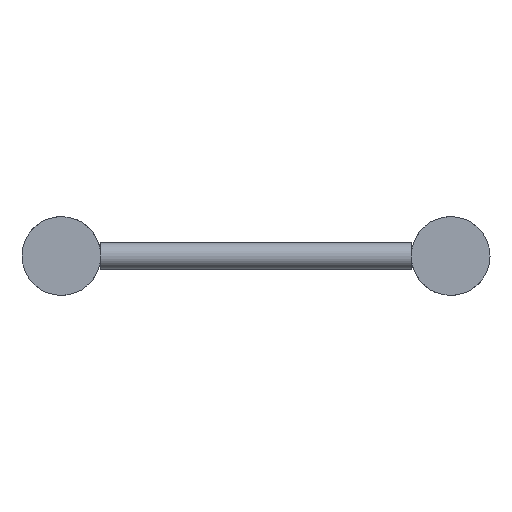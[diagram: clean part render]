
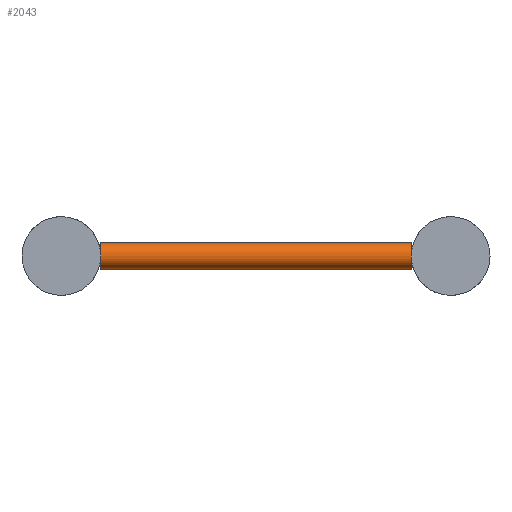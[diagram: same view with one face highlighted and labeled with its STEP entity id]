
A CAD part, left-side view. The second image highlights one B-rep face of the part: STEP entity #2043.
In plain terms, the highlighted cylindrical face has radius 8 mm (diameter 16 mm), a full revolution.
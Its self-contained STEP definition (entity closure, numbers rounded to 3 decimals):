
#409=FACE_BOUND('',#721,.T.);
#572=FACE_OUTER_BOUND('',#720,.T.);
#720=EDGE_LOOP('',(#1569,#1570));
#721=EDGE_LOOP('',(#1571,#1572));
#829=CIRCLE('',#2246,8.);
#830=CIRCLE('',#2248,8.);
#831=CIRCLE('',#2250,8.);
#832=CIRCLE('',#2252,8.);
#993=VERTEX_POINT('',#3583);
#994=VERTEX_POINT('',#3584);
#995=VERTEX_POINT('',#3588);
#996=VERTEX_POINT('',#3589);
#1240=EDGE_CURVE('',#994,#993,#829,.T.);
#1242=EDGE_CURVE('',#996,#995,#830,.T.);
#1243=EDGE_CURVE('',#993,#994,#831,.T.);
#1244=EDGE_CURVE('',#995,#996,#832,.T.);
#1569=ORIENTED_EDGE('',*,*,#1240,.T.);
#1570=ORIENTED_EDGE('',*,*,#1243,.T.);
#1571=ORIENTED_EDGE('',*,*,#1242,.T.);
#1572=ORIENTED_EDGE('',*,*,#1244,.T.);
#1807=CYLINDRICAL_SURFACE('',#2251,8.);
#2043=ADVANCED_FACE('',(#572,#409),#1807,.T.);
#2246=AXIS2_PLACEMENT_3D('',#3586,#2708,#2709);
#2248=AXIS2_PLACEMENT_3D('',#3591,#2713,#2714);
#2250=AXIS2_PLACEMENT_3D('',#3593,#2717,#2718);
#2251=AXIS2_PLACEMENT_3D('',#3594,#2719,#2720);
#2252=AXIS2_PLACEMENT_3D('',#3595,#2721,#2722);
#2708=DIRECTION('center_axis',(0.,1.,0.));
#2709=DIRECTION('ref_axis',(-1.,0.,0.));
#2713=DIRECTION('center_axis',(0.,-1.,0.));
#2714=DIRECTION('ref_axis',(-1.,0.,0.));
#2717=DIRECTION('center_axis',(0.,1.,0.));
#2718=DIRECTION('ref_axis',(-1.,0.,0.));
#2719=DIRECTION('center_axis',(0.,1.,0.));
#2720=DIRECTION('ref_axis',(-1.,0.,0.));
#2721=DIRECTION('center_axis',(0.,-1.,0.));
#2722=DIRECTION('ref_axis',(-1.,0.,0.));
#3583=CARTESIAN_POINT('',(52.,24.15,0.));
#3584=CARTESIAN_POINT('',(68.,24.15,0.));
#3586=CARTESIAN_POINT('Origin',(60.,24.15,0.));
#3588=CARTESIAN_POINT('',(52.,214.85,0.));
#3589=CARTESIAN_POINT('',(68.,214.85,0.));
#3591=CARTESIAN_POINT('Origin',(60.,214.85,0.));
#3593=CARTESIAN_POINT('Origin',(60.,24.15,0.));
#3594=CARTESIAN_POINT('Origin',(60.,119.5,0.));
#3595=CARTESIAN_POINT('Origin',(60.,214.85,0.));
